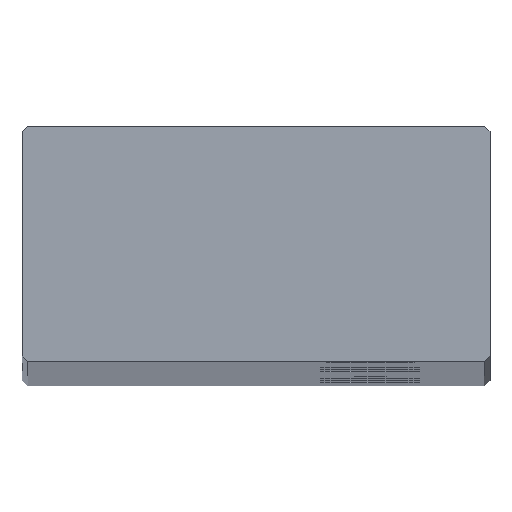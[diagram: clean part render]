
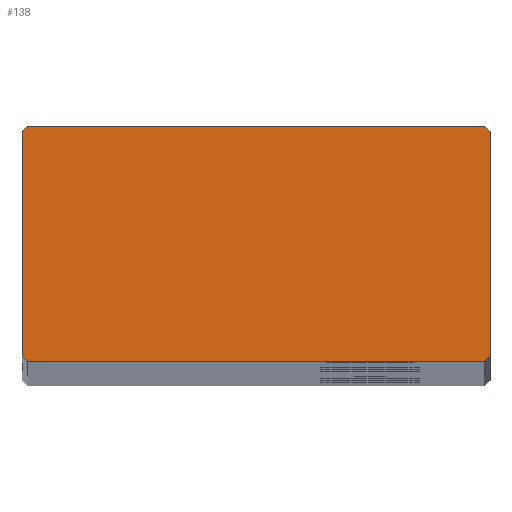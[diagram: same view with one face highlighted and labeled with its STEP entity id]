
A CAD part, top view. The second image highlights one B-rep face of the part: STEP entity #138.
In plain terms, the highlighted planar face has unit normal (0, 0, 1).
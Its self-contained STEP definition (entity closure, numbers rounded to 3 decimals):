
#138=ADVANCED_FACE('',(#300),#301,.T.);
#300=FACE_OUTER_BOUND('',#463,.T.);
#301=PLANE('',#464);
#463=EDGE_LOOP('',(#952,#953,#954,#955,#956,#957,#958,#959));
#464=AXIS2_PLACEMENT_3D('',#960,#961,#962);
#952=ORIENTED_EDGE('',*,*,#1106,.F.);
#953=ORIENTED_EDGE('',*,*,#1128,.F.);
#954=ORIENTED_EDGE('',*,*,#1125,.F.);
#955=ORIENTED_EDGE('',*,*,#1122,.F.);
#956=ORIENTED_EDGE('',*,*,#1119,.F.);
#957=ORIENTED_EDGE('',*,*,#1116,.F.);
#958=ORIENTED_EDGE('',*,*,#1113,.F.);
#959=ORIENTED_EDGE('',*,*,#1110,.F.);
#960=CARTESIAN_POINT('',(0.,16.7,1976.0));
#961=DIRECTION('',(0.0,0.0,1.0));
#962=DIRECTION('',(1.0,0.0,0.0));
#1106=EDGE_CURVE('',#1350,#1351,#1352,.T.);
#1110=EDGE_CURVE('',#1351,#1358,#1359,.T.);
#1113=EDGE_CURVE('',#1358,#1363,#1364,.T.);
#1116=EDGE_CURVE('',#1363,#1368,#1369,.T.);
#1119=EDGE_CURVE('',#1368,#1373,#1374,.T.);
#1122=EDGE_CURVE('',#1373,#1378,#1379,.T.);
#1125=EDGE_CURVE('',#1378,#1383,#1384,.T.);
#1128=EDGE_CURVE('',#1383,#1350,#1388,.T.);
#1350=VERTEX_POINT('',#1654);
#1351=VERTEX_POINT('',#1655);
#1352=LINE('',#1656,#1657);
#1358=VERTEX_POINT('',#1666);
#1359=LINE('',#1667,#1668);
#1363=VERTEX_POINT('',#1674);
#1364=LINE('',#1675,#1676);
#1368=VERTEX_POINT('',#1682);
#1369=LINE('',#1683,#1684);
#1373=VERTEX_POINT('',#1690);
#1374=LINE('',#1691,#1692);
#1378=VERTEX_POINT('',#1698);
#1379=LINE('',#1699,#1700);
#1383=VERTEX_POINT('',#1706);
#1384=LINE('',#1707,#1708);
#1388=LINE('',#1714,#1715);
#1654=CARTESIAN_POINT('',(-32.4,0.,1976.0));
#1655=CARTESIAN_POINT('',(-33.2,0.8,1976.0));
#1656=CARTESIAN_POINT('',(-32.4,0.,1976.0));
#1657=VECTOR('',#2026,1.0);
#1666=CARTESIAN_POINT('',(-33.2,32.6,1976.0));
#1667=CARTESIAN_POINT('',(-33.2,0.8,1976.0));
#1668=VECTOR('',#2030,1.0);
#1674=CARTESIAN_POINT('',(-32.4,33.4,1976.0));
#1675=CARTESIAN_POINT('',(-33.2,32.6,1976.0));
#1676=VECTOR('',#2033,1.0);
#1682=CARTESIAN_POINT('',(32.4,33.4,1976.0));
#1683=CARTESIAN_POINT('',(-32.4,33.4,1976.0));
#1684=VECTOR('',#2036,1.0);
#1690=CARTESIAN_POINT('',(33.2,32.6,1976.0));
#1691=CARTESIAN_POINT('',(32.4,33.4,1976.0));
#1692=VECTOR('',#2039,1.0);
#1698=CARTESIAN_POINT('',(33.2,0.8,1976.0));
#1699=CARTESIAN_POINT('',(33.2,0.8,1976.0));
#1700=VECTOR('',#2042,1.0);
#1706=CARTESIAN_POINT('',(32.4,0.,1976.0));
#1707=CARTESIAN_POINT('',(32.4,0.,1976.0));
#1708=VECTOR('',#2045,1.0);
#1714=CARTESIAN_POINT('',(-32.4,0.,1976.0));
#1715=VECTOR('',#2048,1.0);
#2026=DIRECTION('',(-0.707,0.707,0.0));
#2030=DIRECTION('',(0.0,1.0,0.0));
#2033=DIRECTION('',(0.707,0.707,0.0));
#2036=DIRECTION('',(1.0,0.0,0.0));
#2039=DIRECTION('',(0.707,-0.707,0.0));
#2042=DIRECTION('',(-0.0,-1.0,-0.0));
#2045=DIRECTION('',(-0.707,-0.707,-0.0));
#2048=DIRECTION('',(-1.0,-0.0,-0.0));
